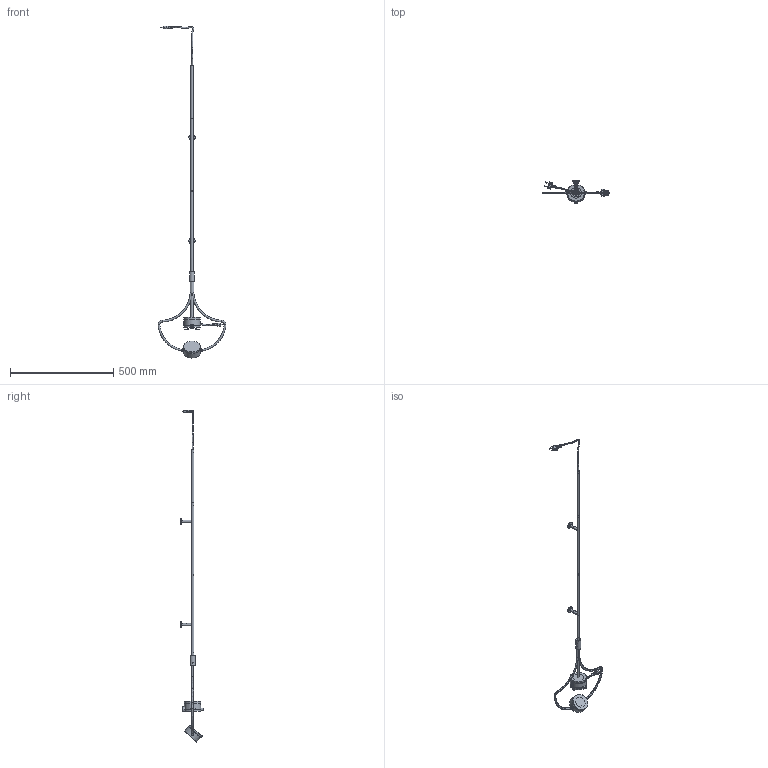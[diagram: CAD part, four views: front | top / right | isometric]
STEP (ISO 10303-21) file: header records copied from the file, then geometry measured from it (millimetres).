
FILE_DESCRIPTION( ( 'Unknown' ), '1' );
FILE_NAME( '//NAS001/PubblicaNas/PROGETTI MM LAMPADARI/PROPOSTE_STUDIO 2020_2021/SERIE DA INDICAZIONI/PROGETTO 1920/1920 con LED8W Applique lungo stelo doppio_singolo/Modulo.stp', 'Unknown', ( 'Unknown' ), ( 'Unknown' ), 'XStep 1.0', 'Unknown', ' ' );
FILE_SCHEMA( ( 'automotive_design' ) );
Length unit declared in the file: millimetre
Products named in the file (25): Assem1; Assem2; Assem3; Assem4; Assem5; Allumino interno a scatola; Modulo LED  8W; Vite autofilettante; Cavo; SPINA_2; Mezzo modulo Ø8; Raccordo 8-10; Scatola superiore_per PMMA; PMMA; DADO M4; Omega interno; Disco chiusura scatola; RONDELLA dentata; Morsetto_wago; Dado M10x1; Scatola collegamento; Allunga 1000; Tondino 8; Fisaggio parete; Rondella parete
Bounding box: 328.46 x 107 x 1607.19 mm (x, y, z)
Volume: 519209 mm3; surface area: 485170 mm2
Topology: 75 solids, 75 shells, 2151 faces, 5079 edges, 3074 vertices
Faces by surface type: plane 948, cylinder 786, torus 200, sphere 126, bspline 61, cone 30
Full cylindrical faces by diameter (mm): 2 x8, 2.1 x24, 2.2 x10, 3 x6, 3.242 x19, 3.8 x6, 4 x31, 5 x16, 5.5 x11, 6 x11, 7 x7, 8 x17, 8.5 x4, 8.917 x7, 10 x4, 10.25 x9, 11.445 x2, 12 x9, 14 x3, 15 x4, 24 x2, 30 x3, 49 x4, 52 x6, 75 x4, 76 x3, 77 x3, 80 x6
Entity records: 20401 total; most frequent: CARTESIAN_POINT 7866, DIRECTION 2427, ORIENTED_EDGE 2102, EDGE_CURVE 1051, AXIS2_PLACEMENT_3D 965, VERTEX_POINT 722, EDGE_LOOP 685, FACE_OUTER_BOUND 581
